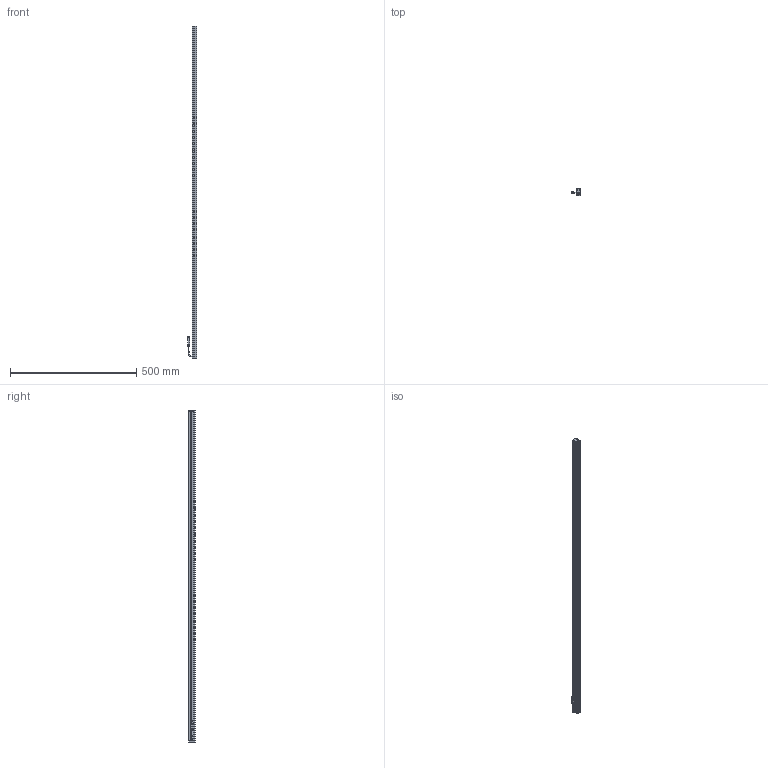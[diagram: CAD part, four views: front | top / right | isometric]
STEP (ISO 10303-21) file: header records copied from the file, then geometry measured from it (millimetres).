
FILE_DESCRIPTION (( 'STEP AP203' ), '1' );
FILE_NAME ('CK-BL131718.STEP', '2025-12-27T01:24:30', ( '' ), ( '' ), 'SwSTEP 2.0', 'SolidWorks 2022', '' );
FILE_SCHEMA (( 'CONFIG_CONTROL_DESIGN' ));
Length unit declared in the file: millimetre
Products named in the file (6): 十字沉头螺丝 M2x10; 光源线-01; CK-BL131718; CK-BL131718-001A; CK-BL131718-002A; CK-BL131718-003A
Assembly tree (9 placements, depth 2):
  CK-BL131718
    CK-BL131718-001A
    CK-BL131718-002A  x2
    CK-BL131718-003A
    光源线-01
    十字沉头螺丝 M2x10  x4
Bounding box: 37.34 x 27 x 1317 mm (x, y, z)
Volume: 289681.3 mm3; surface area: 286060.9 mm2
Topology: 11 solids, 11 shells, 474 faces, 1231 edges, 780 vertices
Faces by surface type: plane 271, cylinder 149, cone 34, bspline 20
Entity records: 12442 total; most frequent: CARTESIAN_POINT 2514, ORIENTED_EDGE 1936, DIRECTION 1916, EDGE_CURVE 968, LINE 668, VECTOR 668, VERTEX_POINT 626, AXIS2_PLACEMENT_3D 624
